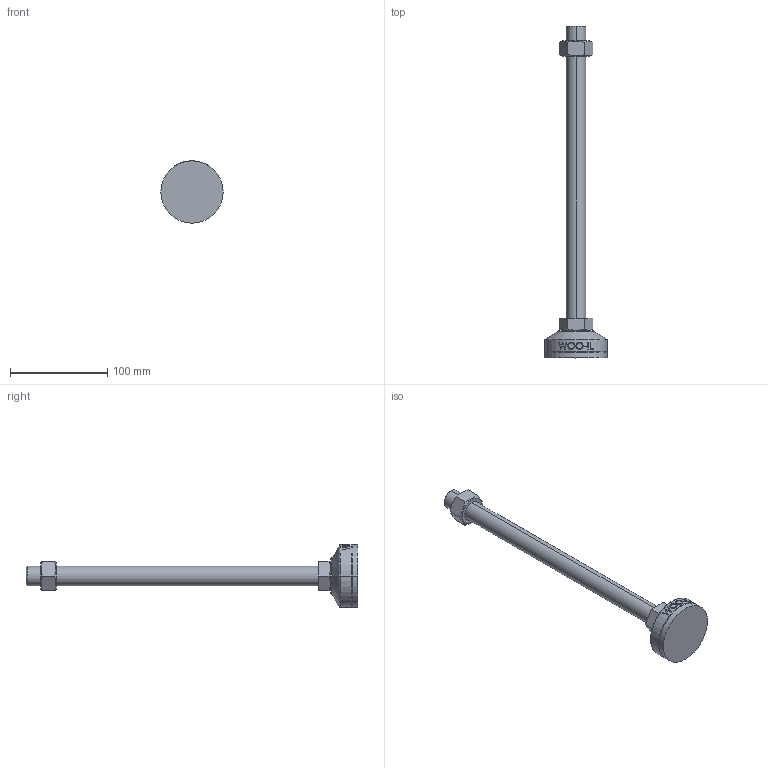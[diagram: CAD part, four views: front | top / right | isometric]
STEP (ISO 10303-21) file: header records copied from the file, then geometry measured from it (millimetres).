
FILE_DESCRIPTION (( 'STEP AP214' ), '1' );
FILE_NAME ('MFZR64-M20-300.step', '2021-03-29T06:57:16', ( '' ), ( '' ), 'SwSTEP 2.0', 'SolidWorks 2019', '' );
FILE_SCHEMA (( 'AUTOMOTIVE_DESIGN' ));
Length unit declared in the file: millimetre
Products named in the file (2): MFZR64-M20-300
Bounding box: 64 x 341 x 64 mm (x, y, z)
Volume: 189992.7 mm3; surface area: 36114.5 mm2
Topology: 3 solids, 3 shells, 102 faces, 235 edges, 150 vertices
Faces by surface type: plane 48, cylinder 18, bspline 16, cone 14, torus 6
Entity records: 4428 total; most frequent: CARTESIAN_POINT 2173, ORIENTED_EDGE 470, DIRECTION 415, EDGE_CURVE 235, AXIS2_PLACEMENT_3D 158, VERTEX_POINT 150, EDGE_LOOP 115, FACE_OUTER_BOUND 102
